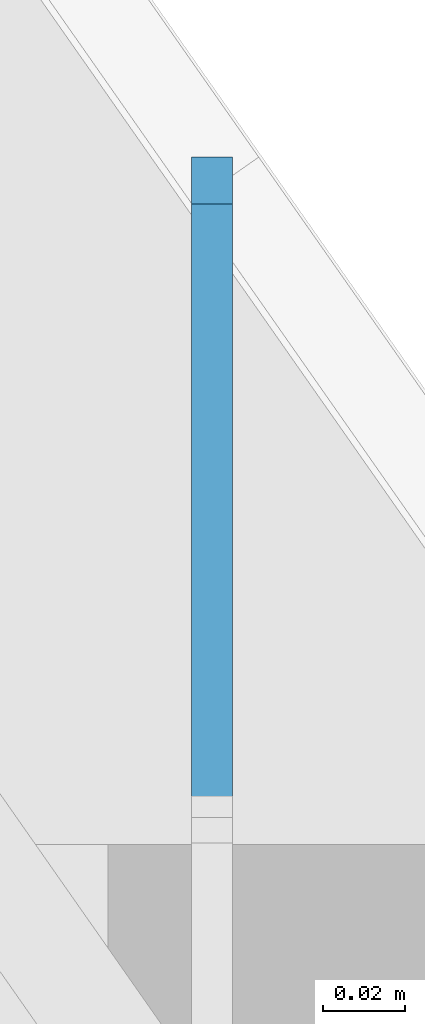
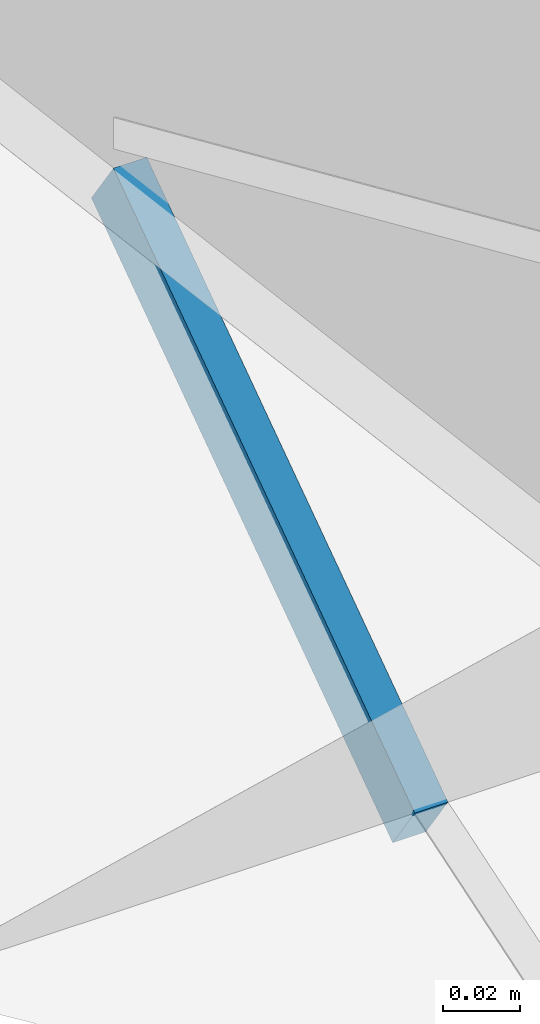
# One storey, part 314 of 583: 1 slab.
"""IFC2X3 building model written with IfcOpenShell, lengths in metres."""

from ifc_helpers import new_model, entity, si_unit, converted_unit, derived_unit, money_unit, direction, frame, origin_with_axes, place, context, subcontext, project, spatial, faceted_brep, material, type_object, element, save


model = new_model("IFC2X3")

# Units and contexts
model_context = context("Model", 3, precision=1e-05, world=origin_with_axes(), true_north=direction((0.0, 1.0)))
body_context = subcontext(model_context, "Body", "Model", "MODEL_VIEW", scale=1.0)
ifc_project = project(units=[si_unit("LENGTHUNIT", "METRE"), si_unit("AREAUNIT", "SQUARE_METRE"), si_unit("VOLUMEUNIT", "CUBIC_METRE"), si_unit("ABSORBEDDOSEUNIT", "GRAY"), si_unit("AMOUNTOFSUBSTANCEUNIT", "MOLE"), si_unit("DOSEEQUIVALENTUNIT", "SIEVERT"), si_unit("ELECTRICCAPACITANCEUNIT", "FARAD"), si_unit("ELECTRICCHARGEUNIT", "COULOMB"), si_unit("ELECTRICCONDUCTANCEUNIT", "SIEMENS"), si_unit("ELECTRICCURRENTUNIT", "AMPERE"), si_unit("ELECTRICRESISTANCEUNIT", "OHM"), si_unit("ELECTRICVOLTAGEUNIT", "VOLT"), si_unit("ENERGYUNIT", "JOULE"), si_unit("FORCEUNIT", "NEWTON"), si_unit("FREQUENCYUNIT", "HERTZ"), si_unit("ILLUMINANCEUNIT", "LUX"), si_unit("INDUCTANCEUNIT", "HENRY"), si_unit("LUMINOUSFLUXUNIT", "LUMEN"), si_unit("LUMINOUSINTENSITYUNIT", "CANDELA"), si_unit("MAGNETICFLUXDENSITYUNIT", "TESLA"), si_unit("MAGNETICFLUXUNIT", "WEBER"), si_unit("MASSUNIT", "GRAM"), converted_unit("PLANEANGLEUNIT", "degree", entity("IfcReal", 0.0174532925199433), si_unit("PLANEANGLEUNIT", "RADIAN"), dimensions=[0, 0, 0, 0, 0, 0, 0]), si_unit("POWERUNIT", "WATT"), si_unit("PRESSUREUNIT", "PASCAL"), si_unit("RADIOACTIVITYUNIT", "BECQUEREL"), si_unit("SOLIDANGLEUNIT", "STERADIAN"), si_unit("THERMODYNAMICTEMPERATUREUNIT", "KELVIN"), si_unit("TIMEUNIT", "SECOND"), derived_unit("ACCELERATIONUNIT", [(si_unit("LENGTHUNIT", "METRE"), 1), (si_unit("TIMEUNIT", "SECOND"), -2)]), derived_unit("ANGULARVELOCITYUNIT", [(converted_unit("PLANEANGLEUNIT", "degree", entity("IfcReal", 0.0174532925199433), si_unit("PLANEANGLEUNIT", "RADIAN"), dimensions=[0, 0, 0, 0, 0, 0, 0]), 1), (si_unit("TIMEUNIT", "SECOND"), -1)]), derived_unit("CURVATUREUNIT", [(converted_unit("PLANEANGLEUNIT", "degree", entity("IfcReal", 0.0174532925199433), si_unit("PLANEANGLEUNIT", "RADIAN"), dimensions=[0, 0, 0, 0, 0, 0, 0]), 1), (si_unit("LENGTHUNIT", "METRE"), -1)]), derived_unit("DYNAMICVISCOSITYUNIT", [(si_unit("PRESSUREUNIT", "PASCAL"), 1), (si_unit("TIMEUNIT", "SECOND"), 1)]), derived_unit("HEATFLUXDENSITYUNIT", [(si_unit("POWERUNIT", "WATT"), 1), (si_unit("LENGTHUNIT", "METRE"), -2)]), derived_unit("HEATINGVALUEUNIT", [(si_unit("ENERGYUNIT", "JOULE"), 1), (si_unit("MASSUNIT", "GRAM"), -1)]), derived_unit("INTEGERCOUNTRATEUNIT", [(si_unit("TIMEUNIT", "SECOND"), -1)]), derived_unit("IONCONCENTRATIONUNIT", [(si_unit("MASSUNIT", "GRAM"), 1), (si_unit("VOLUMEUNIT", "CUBIC_METRE"), -1)]), derived_unit("ISOTHERMALMOISTURECAPACITYUNIT", [(si_unit("VOLUMEUNIT", "CUBIC_METRE"), 1), (si_unit("MASSUNIT", "GRAM"), -1)]), derived_unit("KINEMATICVISCOSITYUNIT", [(si_unit("AREAUNIT", "SQUARE_METRE"), 1), (si_unit("TIMEUNIT", "SECOND"), -1)]), derived_unit("LINEARFORCEUNIT", [(si_unit("FORCEUNIT", "NEWTON"), 1), (si_unit("LENGTHUNIT", "METRE"), -1)]), derived_unit("LINEARMOMENTUNIT", [(si_unit("FORCEUNIT", "NEWTON"), 1), (si_unit("LENGTHUNIT", "METRE"), -1)]), derived_unit("LINEARSTIFFNESSUNIT", [(si_unit("FORCEUNIT", "NEWTON"), 1), (si_unit("LENGTHUNIT", "METRE"), -1)]), derived_unit("LINEARVELOCITYUNIT", [(si_unit("LENGTHUNIT", "METRE"), 1), (si_unit("TIMEUNIT", "SECOND"), -1)]), derived_unit("LUMINOUSINTENSITYDISTRIBUTIONUNIT", [(si_unit("LUMINOUSINTENSITYUNIT", "CANDELA"), 1), (si_unit("LUMINOUSFLUXUNIT", "LUMEN"), -1)]), derived_unit("MASSDENSITYUNIT", [(si_unit("MASSUNIT", "GRAM"), 1), (si_unit("VOLUMEUNIT", "CUBIC_METRE"), -1)]), derived_unit("MASSFLOWRATEUNIT", [(si_unit("MASSUNIT", "GRAM"), 1), (si_unit("TIMEUNIT", "SECOND"), -1)]), derived_unit("MASSPERLENGTHUNIT", [(si_unit("MASSUNIT", "GRAM"), 1), (si_unit("LENGTHUNIT", "METRE"), -1)]), derived_unit("MODULUSOFELASTICITYUNIT", [(si_unit("FORCEUNIT", "NEWTON"), 1), (si_unit("AREAUNIT", "SQUARE_METRE"), -1)]), derived_unit("MODULUSOFLINEARSUBGRADEREACTIONUNIT", [(si_unit("FORCEUNIT", "NEWTON"), 1), (si_unit("LENGTHUNIT", "METRE"), -2)]), derived_unit("MODULUSOFROTATIONALSUBGRADEREACTIONUNIT", [(si_unit("FORCEUNIT", "NEWTON"), 1), (si_unit("LENGTHUNIT", "METRE"), 1)]), derived_unit("MODULUSOFSUBGRADEREACTIONUNIT", [(si_unit("FORCEUNIT", "NEWTON"), 1), (si_unit("VOLUMEUNIT", "CUBIC_METRE"), -1)]), derived_unit("MOISTUREDIFFUSIVITYUNIT", [(si_unit("VOLUMEUNIT", "CUBIC_METRE"), 1), (si_unit("TIMEUNIT", "SECOND"), -1)]), derived_unit("MOLECULARWEIGHTUNIT", [(si_unit("MASSUNIT", "GRAM"), 1), (si_unit("AMOUNTOFSUBSTANCEUNIT", "MOLE"), -1)]), derived_unit("PLANARFORCEUNIT", [(si_unit("FORCEUNIT", "NEWTON"), 1), (si_unit("LENGTHUNIT", "METRE"), -2)]), derived_unit("ROTATIONALFREQUENCYUNIT", [(si_unit("TIMEUNIT", "SECOND"), -1)]), derived_unit("ROTATIONALMASSUNIT", [(si_unit("MASSUNIT", "GRAM"), 1), (si_unit("LENGTHUNIT", "METRE"), 2)]), derived_unit("ROTATIONALSTIFFNESSUNIT", [(si_unit("FORCEUNIT", "NEWTON"), 1), (si_unit("LENGTHUNIT", "METRE"), 1), (converted_unit("PLANEANGLEUNIT", "degree", entity("IfcReal", 0.0174532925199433), si_unit("PLANEANGLEUNIT", "RADIAN"), dimensions=[0, 0, 0, 0, 0, 0, 0]), -1)]), derived_unit("SECTIONAREAINTEGRALUNIT", [(si_unit("LENGTHUNIT", "METRE"), 5)]), derived_unit("SECTIONMODULUSUNIT", [(si_unit("LENGTHUNIT", "METRE"), 3)]), derived_unit("SHEARMODULUSUNIT", [(si_unit("FORCEUNIT", "NEWTON"), 1), (si_unit("AREAUNIT", "SQUARE_METRE"), -1)]), derived_unit("SOUNDPOWERUNIT", [(si_unit("ENERGYUNIT", "JOULE"), 1), (si_unit("TIMEUNIT", "SECOND"), -1)]), derived_unit("SPECIFICHEATCAPACITYUNIT", [(si_unit("FORCEUNIT", "NEWTON"), 1), (si_unit("MASSUNIT", "GRAM"), -1), (si_unit("THERMODYNAMICTEMPERATUREUNIT", "KELVIN"), -1)]), derived_unit("TEMPERATUREGRADIENTUNIT", [(si_unit("THERMODYNAMICTEMPERATUREUNIT", "KELVIN"), 1), (si_unit("LENGTHUNIT", "METRE"), -1)]), derived_unit("THERMALADMITTANCEUNIT", [(si_unit("POWERUNIT", "WATT"), 1), (si_unit("AREAUNIT", "SQUARE_METRE"), -1), (si_unit("THERMODYNAMICTEMPERATUREUNIT", "KELVIN"), -1)]), derived_unit("THERMALCONDUCTANCEUNIT", [(si_unit("POWERUNIT", "WATT"), 1), (si_unit("LENGTHUNIT", "METRE"), -1), (si_unit("THERMODYNAMICTEMPERATUREUNIT", "KELVIN"), -1)]), derived_unit("THERMALEXPANSIONCOEFFICIENTUNIT", [(si_unit("THERMODYNAMICTEMPERATUREUNIT", "KELVIN"), -1)]), derived_unit("THERMALRESISTANCEUNIT", [(si_unit("AREAUNIT", "SQUARE_METRE"), 1), (si_unit("POWERUNIT", "WATT"), -1)]), derived_unit("THERMALTRANSMITTANCEUNIT", [(si_unit("POWERUNIT", "WATT"), 1), (si_unit("AREAUNIT", "SQUARE_METRE"), -1), (si_unit("THERMODYNAMICTEMPERATUREUNIT", "KELVIN"), -1)]), derived_unit("TORQUEUNIT", [(si_unit("FORCEUNIT", "NEWTON"), 1), (si_unit("LENGTHUNIT", "METRE"), 1)]), derived_unit("VAPORPERMEABILITYUNIT", [(si_unit("MASSUNIT", "GRAM"), 1), (si_unit("TIMEUNIT", "SECOND"), -1)]), derived_unit("VOLUMETRICFLOWRATEUNIT", [(si_unit("VOLUMEUNIT", "CUBIC_METRE"), 1), (si_unit("TIMEUNIT", "SECOND"), -1)]), derived_unit("WARPINGCONSTANTUNIT", [(si_unit("LENGTHUNIT", "METRE"), 6)]), derived_unit("WARPINGMOMENTUNIT", [(si_unit("FORCEUNIT", "NEWTON"), 1), (si_unit("LENGTHUNIT", "METRE"), 2)]), money_unit("GBP")], contexts=[model_context])

# Site, building, storey
site_placement = place(None, origin_with_axes())
site = spatial("IfcSite", under=ifc_project, at=site_placement, Name="Site", CompositionType="ELEMENT")
building_placement = place(site_placement, origin_with_axes())
building = spatial("IfcBuilding", under=site, at=building_placement, Name="Building01", CompositionType="ELEMENT")
storey_placement = place(building_placement, frame((0.0, 0.0, 20.78), z_axis=(0.0, 0.0, 1.0), x_axis=(1.0, 0.0, 0.0)))
storey = spatial("IfcBuildingStorey", under=building, at=storey_placement, Name="RL", CompositionType="ELEMENT", Elevation=20.78)

# Slab
ifc_material = material(Name="A_BSUK_Roofs")
slab_type = type_object("IfcSlabType", Name="A-FloorsSlabs A_BSUK_Slabs", PredefinedType="FLOOR")
slab_placement = place(storey_placement, frame((13.455953, 18.780461, -19.44574), z_axis=(0.0, 1.0, 0.0), x_axis=(-1.0, 0.0, 0.0)))
element("IfcSlab", 1, at=slab_placement, inside=storey, type_object=slab_type, material=ifc_material, Name="A-FloorsSlabs A_BSUK_Slabs", ObjectType="A-FloorsSlabs A_BSUK_Slabs", context=body_context, shape_type="Brep", body=[
    faceted_brep([(0.0, 0.109715, 0.15669), (0.0, 0.093332, 0.168161), (0.0, -0.016383, 0.011472), (0.0, 0.0, 0.0), (-0.01, -0.016383, 0.011472), (-0.01, 0.0, 0.0), (-0.01, 0.093332, 0.168161), (-0.01, 0.109715, 0.15669)], [[[0, 1, 2, 3]], [[3, 2, 4, 5]], [[5, 4, 6, 7]], [[7, 6, 1, 0]], [[1, 6, 4, 2]], [[3, 5, 7, 0]]]),
])

save(model, "model.ifc")
